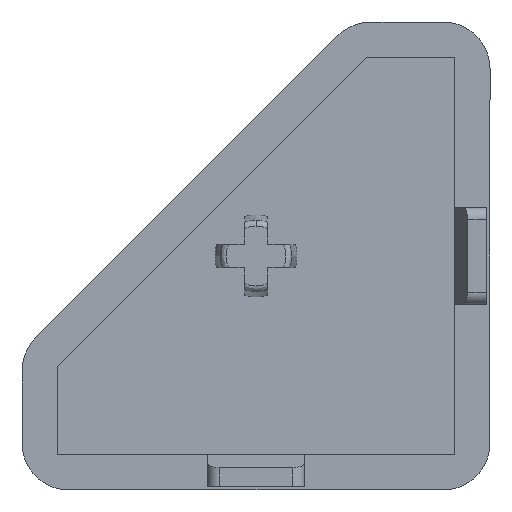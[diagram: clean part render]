
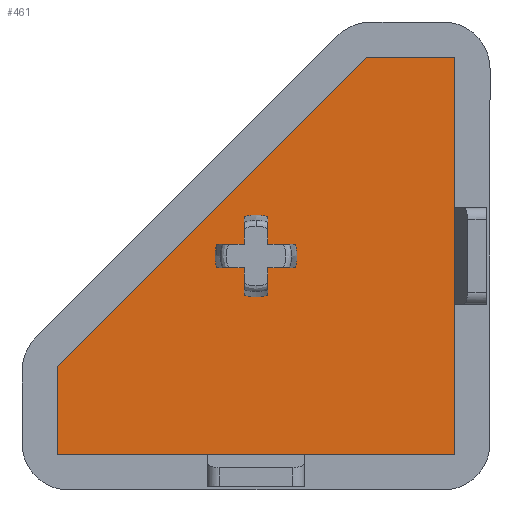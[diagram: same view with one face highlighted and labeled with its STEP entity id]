
A CAD part, front view. The second image highlights one B-rep face of the part: STEP entity #461.
In plain terms, the highlighted planar face has unit normal (0, -1, 0).
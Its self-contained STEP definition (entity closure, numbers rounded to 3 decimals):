
#5 = ORIENTED_EDGE ( 'NONE', *, *, #2125, .T. ) ;
#16 = ORIENTED_EDGE ( 'NONE', *, *, #1758, .F. ) ;
#19 = VERTEX_POINT ( 'NONE', #486 ) ;
#23 = DIRECTION ( 'NONE',  ( 0., -1., 0. ) ) ;
#26 = DIRECTION ( 'NONE',  ( 0., 0., -1. ) ) ;
#28 = VECTOR ( 'NONE', #244, 1000. ) ;
#45 = EDGE_CURVE ( 'NONE', #1038, #19, #1746, .T. ) ;
#55 = LINE ( 'NONE', #268, #91 ) ;
#57 = LINE ( 'NONE', #328, #28 ) ;
#91 = VECTOR ( 'NONE', #1919, 1000. ) ;
#123 = CIRCLE ( 'NONE', #1407, 3.5 ) ;
#125 = VERTEX_POINT ( 'NONE', #613 ) ;
#135 = VERTEX_POINT ( 'NONE', #620 ) ;
#138 = ORIENTED_EDGE ( 'NONE', *, *, #2100, .T. ) ;
#139 = EDGE_CURVE ( 'NONE', #1871, #135, #817, .T. ) ;
#146 = ORIENTED_EDGE ( 'NONE', *, *, #45, .T. ) ;
#149 = EDGE_LOOP ( 'NONE', ( #184, #2150, #492, #16, #1884, #310, #1251, #1968, #1872, #225, #1902, #146, #1314 ) ) ;
#167 = CIRCLE ( 'NONE', #627, 3.5 ) ;
#170 = CARTESIAN_POINT ( 'NONE',  ( 1., 3.267, -10.734 ) ) ;
#184 = ORIENTED_EDGE ( 'NONE', *, *, #2074, .T. ) ;
#186 = VECTOR ( 'NONE', #1955, 1000. ) ;
#195 = LINE ( 'NONE', #1136, #469 ) ;
#197 = DIRECTION ( 'NONE',  ( 0., 1., 0. ) ) ;
#202 = VERTEX_POINT ( 'NONE', #803 ) ;
#215 = DIRECTION ( 'NONE',  ( 0., 0., -1. ) ) ;
#218 = CARTESIAN_POINT ( 'NONE',  ( 0., 3.267, 6.266 ) ) ;
#225 = ORIENTED_EDGE ( 'NONE', *, *, #2105, .T. ) ;
#231 = CARTESIAN_POINT ( 'NONE',  ( 0., 3.267, 6.266 ) ) ;
#244 = DIRECTION ( 'NONE',  ( 0., 0., 1. ) ) ;
#254 = DIRECTION ( 'NONE',  ( 0., -1., 0. ) ) ;
#255 = DIRECTION ( 'NONE',  ( 0., 0., -1. ) ) ;
#268 = CARTESIAN_POINT ( 'NONE',  ( -17., 3.267, -3.145 ) ) ;
#310 = ORIENTED_EDGE ( 'NONE', *, *, #2237, .T. ) ;
#316 = CARTESIAN_POINT ( 'NONE',  ( 0., 3.267, 6.266 ) ) ;
#320 = DIRECTION ( 'NONE',  ( 0., 0., -1. ) ) ;
#328 = CARTESIAN_POINT ( 'NONE',  ( -1., 3.267, -10.734 ) ) ;
#367 = DIRECTION ( 'NONE',  ( 0., 1., 0. ) ) ;
#377 = ORIENTED_EDGE ( 'NONE', *, *, #139, .T. ) ;
#429 = DIRECTION ( 'NONE',  ( 0., 0., 1. ) ) ;
#444 = AXIS2_PLACEMENT_3D ( 'NONE', #1030, #1031, #1034 ) ;
#450 = VECTOR ( 'NONE', #429, 1000. ) ;
#461 = ADVANCED_FACE ( 'NONE', ( #899, #732 ), #1020, .T. ) ;
#469 = VECTOR ( 'NONE', #1124, 1000. ) ;
#486 = CARTESIAN_POINT ( 'NONE',  ( 1., 3.267, 7.266 ) ) ;
#488 = VERTEX_POINT ( 'NONE', #1066 ) ;
#492 = ORIENTED_EDGE ( 'NONE', *, *, #1873, .T. ) ;
#526 = DIRECTION ( 'NONE',  ( 0., 0., -1. ) ) ;
#545 = VECTOR ( 'NONE', #1722, 1000. ) ;
#567 = LINE ( 'NONE', #999, #545 ) ;
#605 = AXIS2_PLACEMENT_3D ( 'NONE', #2222, #23, #26 ) ;
#610 = EDGE_CURVE ( 'NONE', #202, #710, #195, .T. ) ;
#613 = CARTESIAN_POINT ( 'NONE',  ( 3.354, 3.267, 7.266 ) ) ;
#616 = VECTOR ( 'NONE', #637, 1000. ) ;
#620 = CARTESIAN_POINT ( 'NONE',  ( 17., 3.267, -10.734 ) ) ;
#627 = AXIS2_PLACEMENT_3D ( 'NONE', #218, #197, #215 ) ;
#636 = CARTESIAN_POINT ( 'NONE',  ( -17., 3.267, -10.734 ) ) ;
#637 = DIRECTION ( 'NONE',  ( 1., 0., 0. ) ) ;
#641 = VERTEX_POINT ( 'NONE', #1167 ) ;
#674 = LINE ( 'NONE', #1549, #450 ) ;
#678 = VECTOR ( 'NONE', #687, 1000. ) ;
#687 = DIRECTION ( 'NONE',  ( 0., 0., -1. ) ) ;
#701 = CARTESIAN_POINT ( 'NONE',  ( -17., 3.267, -10.734 ) ) ;
#710 = VERTEX_POINT ( 'NONE', #1260 ) ;
#730 = VECTOR ( 'NONE', #1400, 1000. ) ;
#732 = FACE_OUTER_BOUND ( 'NONE', #1818, .T. ) ;
#735 = LINE ( 'NONE', #736, #730 ) ;
#736 = CARTESIAN_POINT ( 'NONE',  ( 1., 3.267, -10.734 ) ) ;
#751 = CARTESIAN_POINT ( 'NONE',  ( -17., 3.267, -10.734 ) ) ;
#773 = CARTESIAN_POINT ( 'NONE',  ( -1., 3.267, 7.266 ) ) ;
#779 = AXIS2_PLACEMENT_3D ( 'NONE', #316, #254, #320 ) ;
#786 = VECTOR ( 'NONE', #892, 1000. ) ;
#788 = LINE ( 'NONE', #701, #678 ) ;
#796 = VERTEX_POINT ( 'NONE', #1288 ) ;
#797 = CARTESIAN_POINT ( 'NONE',  ( -1., 3.267, 2.912 ) ) ;
#803 = CARTESIAN_POINT ( 'NONE',  ( 17., 3.267, 23.266 ) ) ;
#817 = LINE ( 'NONE', #636, #616 ) ;
#869 = LINE ( 'NONE', #1952, #786 ) ;
#892 = DIRECTION ( 'NONE',  ( 1., 0., 0. ) ) ;
#899 = FACE_BOUND ( 'NONE', #149, .T. ) ;
#945 = CARTESIAN_POINT ( 'NONE',  ( -1., 3.267, 9.621 ) ) ;
#955 = VERTEX_POINT ( 'NONE', #2203 ) ;
#999 = CARTESIAN_POINT ( 'NONE',  ( 17., 3.267, 7.266 ) ) ;
#1020 = PLANE ( 'NONE',  #444 ) ;
#1030 = CARTESIAN_POINT ( 'NONE',  ( 17., 3.267, -10.734 ) ) ;
#1031 = DIRECTION ( 'NONE',  ( 0., -1., 0. ) ) ;
#1034 = DIRECTION ( 'NONE',  ( 0., 0., 1. ) ) ;
#1038 = VERTEX_POINT ( 'NONE', #1304 ) ;
#1066 = CARTESIAN_POINT ( 'NONE',  ( -17., 3.267, -3.145 ) ) ;
#1097 = CIRCLE ( 'NONE', #779, 3.5 ) ;
#1098 = EDGE_CURVE ( 'NONE', #641, #1313, #2115, .T. ) ;
#1120 = EDGE_CURVE ( 'NONE', #1456, #955, #2091, .T. ) ;
#1124 = DIRECTION ( 'NONE',  ( -1., 0., 0. ) ) ;
#1135 = VERTEX_POINT ( 'NONE', #1453 ) ;
#1136 = CARTESIAN_POINT ( 'NONE',  ( 9.412, 3.267, 23.266 ) ) ;
#1145 = AXIS2_PLACEMENT_3D ( 'NONE', #1404, #1406, #1410 ) ;
#1167 = CARTESIAN_POINT ( 'NONE',  ( -3.354, 3.267, 5.266 ) ) ;
#1251 = ORIENTED_EDGE ( 'NONE', *, *, #2109, .T. ) ;
#1260 = CARTESIAN_POINT ( 'NONE',  ( 9.412, 3.267, 23.266 ) ) ;
#1288 = CARTESIAN_POINT ( 'NONE',  ( 0., 3.267, 2.766 ) ) ;
#1304 = CARTESIAN_POINT ( 'NONE',  ( 1., 3.267, 9.621 ) ) ;
#1313 = VERTEX_POINT ( 'NONE', #1578 ) ;
#1314 = ORIENTED_EDGE ( 'NONE', *, *, #2228, .T. ) ;
#1400 = DIRECTION ( 'NONE',  ( 0., 0., -1. ) ) ;
#1403 = CARTESIAN_POINT ( 'NONE',  ( 17., 3.267, 5.266 ) ) ;
#1404 = CARTESIAN_POINT ( 'NONE',  ( 0., 3.267, 6.266 ) ) ;
#1406 = DIRECTION ( 'NONE',  ( 0., 1., 0. ) ) ;
#1407 = AXIS2_PLACEMENT_3D ( 'NONE', #231, #367, #255 ) ;
#1410 = DIRECTION ( 'NONE',  ( 0., 0., -1. ) ) ;
#1415 = DIRECTION ( 'NONE',  ( -1., 0., 0. ) ) ;
#1453 = CARTESIAN_POINT ( 'NONE',  ( 1., 3.267, 2.912 ) ) ;
#1456 = VERTEX_POINT ( 'NONE', #1883 ) ;
#1549 = CARTESIAN_POINT ( 'NONE',  ( -1., 3.267, -10.734 ) ) ;
#1578 = CARTESIAN_POINT ( 'NONE',  ( -3.354, 3.267, 7.266 ) ) ;
#1642 = VERTEX_POINT ( 'NONE', #2088 ) ;
#1678 = LINE ( 'NONE', #2013, #186 ) ;
#1717 = ORIENTED_EDGE ( 'NONE', *, *, #610, .T. ) ;
#1722 = DIRECTION ( 'NONE',  ( 1., 0., 0. ) ) ;
#1746 = LINE ( 'NONE', #170, #1805 ) ;
#1758 = EDGE_CURVE ( 'NONE', #796, #1135, #1097, .T. ) ;
#1805 = VECTOR ( 'NONE', #526, 1000. ) ;
#1818 = EDGE_LOOP ( 'NONE', ( #138, #2010, #377, #5, #1717 ) ) ;
#1871 = VERTEX_POINT ( 'NONE', #751 ) ;
#1872 = ORIENTED_EDGE ( 'NONE', *, *, #2206, .T. ) ;
#1873 = EDGE_CURVE ( 'NONE', #955, #1135, #735, .T. ) ;
#1882 = EDGE_CURVE ( 'NONE', #488, #1871, #788, .T. ) ;
#1883 = CARTESIAN_POINT ( 'NONE',  ( 3.354, 3.267, 5.266 ) ) ;
#1884 = ORIENTED_EDGE ( 'NONE', *, *, #2137, .F. ) ;
#1902 = ORIENTED_EDGE ( 'NONE', *, *, #2079, .T. ) ;
#1918 = DIRECTION ( 'NONE',  ( 0., 0., 1. ) ) ;
#1919 = DIRECTION ( 'NONE',  ( -0.707, 0., -0.707 ) ) ;
#1952 = CARTESIAN_POINT ( 'NONE',  ( 17., 3.267, 7.266 ) ) ;
#1955 = DIRECTION ( 'NONE',  ( -1., 0., 0. ) ) ;
#1957 = VERTEX_POINT ( 'NONE', #797 ) ;
#1968 = ORIENTED_EDGE ( 'NONE', *, *, #1098, .T. ) ;
#1982 = VECTOR ( 'NONE', #1918, 1000. ) ;
#2008 = CARTESIAN_POINT ( 'NONE',  ( 17., 3.267, -10.734 ) ) ;
#2010 = ORIENTED_EDGE ( 'NONE', *, *, #1882, .T. ) ;
#2013 = CARTESIAN_POINT ( 'NONE',  ( 17., 3.267, 5.266 ) ) ;
#2027 = LINE ( 'NONE', #2008, #1982 ) ;
#2062 = VECTOR ( 'NONE', #1415, 1000. ) ;
#2068 = VERTEX_POINT ( 'NONE', #945 ) ;
#2074 = EDGE_CURVE ( 'NONE', #125, #1456, #167, .T. ) ;
#2079 = EDGE_CURVE ( 'NONE', #2068, #1038, #123, .T. ) ;
#2088 = CARTESIAN_POINT ( 'NONE',  ( -1., 3.267, 5.266 ) ) ;
#2091 = LINE ( 'NONE', #1403, #2062 ) ;
#2100 = EDGE_CURVE ( 'NONE', #710, #488, #55, .T. ) ;
#2105 = EDGE_CURVE ( 'NONE', #2231, #2068, #57, .T. ) ;
#2109 = EDGE_CURVE ( 'NONE', #1642, #641, #1678, .T. ) ;
#2115 = CIRCLE ( 'NONE', #1145, 3.5 ) ;
#2125 = EDGE_CURVE ( 'NONE', #135, #202, #2027, .T. ) ;
#2137 = EDGE_CURVE ( 'NONE', #1957, #796, #2202, .T. ) ;
#2150 = ORIENTED_EDGE ( 'NONE', *, *, #1120, .T. ) ;
#2202 = CIRCLE ( 'NONE', #605, 3.5 ) ;
#2203 = CARTESIAN_POINT ( 'NONE',  ( 1., 3.267, 5.266 ) ) ;
#2206 = EDGE_CURVE ( 'NONE', #1313, #2231, #869, .T. ) ;
#2222 = CARTESIAN_POINT ( 'NONE',  ( 0., 3.267, 6.266 ) ) ;
#2228 = EDGE_CURVE ( 'NONE', #19, #125, #567, .T. ) ;
#2231 = VERTEX_POINT ( 'NONE', #773 ) ;
#2237 = EDGE_CURVE ( 'NONE', #1957, #1642, #674, .T. ) ;
